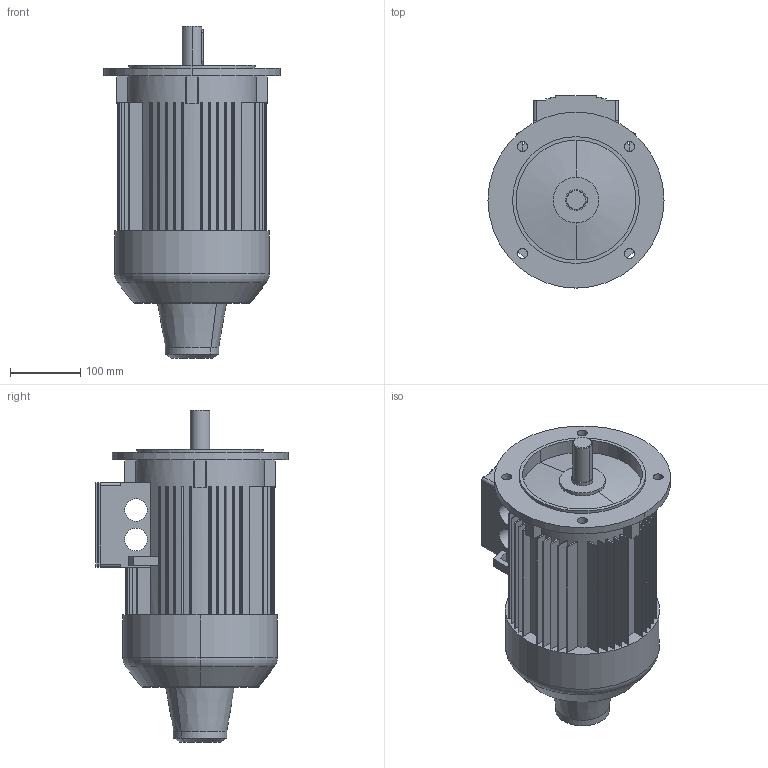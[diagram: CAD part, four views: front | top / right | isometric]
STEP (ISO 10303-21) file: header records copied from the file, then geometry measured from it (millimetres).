
FILE_DESCRIPTION((''),'2;1');
FILE_NAME('1LA7113-2AA11-Z-H57_PRT','2002-04-12T',('martin könig'),(''),'PRO/ENGINEER BY PARAMETRIC TECHNOLOGY CORPORATION, 2002030','PRO/ENGINEER BY PARAMETRIC TECHNOLOGY CORPORATION, 2002030','');
FILE_SCHEMA(('CONFIG_CONTROL_DESIGN'));
Length unit declared in the file: millimetre
Products named in the file (1): 1LA7113-2AA11-Z-H57_PRT
Bounding box: 250 x 273 x 471.5 mm (x, y, z)
Volume: 11126709.1 mm3; surface area: 598349.9 mm2
Topology: 1 solids, 1 shells, 268 faces, 758 edges, 500 vertices
Faces by surface type: plane 166, cylinder 88, cone 10, torus 4
Entity records: 8831 total; most frequent: CARTESIAN_POINT 1557, DIRECTION 1552, ORIENTED_EDGE 1516, EDGE_CURVE 758, AXIS2_PLACEMENT_3D 528, VERTEX_POINT 500, VECTOR 496, LINE 496
